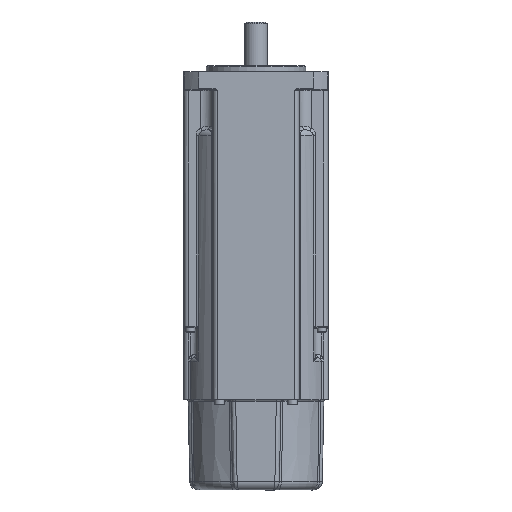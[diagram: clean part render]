
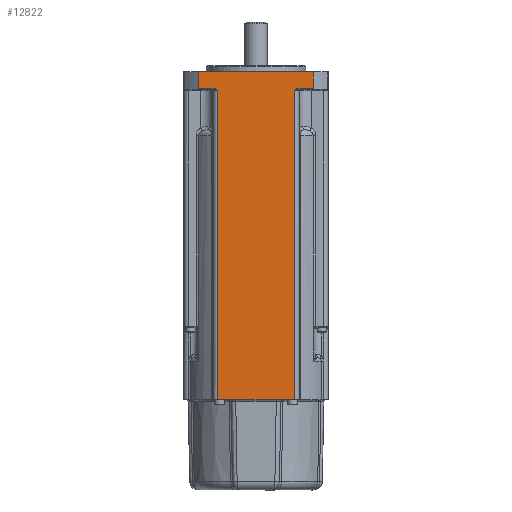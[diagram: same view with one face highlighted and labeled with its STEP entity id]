
A CAD part, front view. The second image highlights one B-rep face of the part: STEP entity #12822.
In plain terms, the highlighted planar face has unit normal (0, -1, 0).
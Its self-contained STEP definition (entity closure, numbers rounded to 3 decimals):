
#7372 = CARTESIAN_POINT ( 'NONE',  ( -15.232, -29., -132.2 ) ) ;
#7373 = DIRECTION ( 'NONE',  ( -1., 0., 0. ) ) ;
#7374 = VECTOR ( 'NONE', #7373, 1000. ) ;
#7375 = CARTESIAN_POINT ( 'NONE',  ( -17.215, -29., -132.2 ) ) ;
#7376 = LINE ( 'NONE', #7375, #7374 ) ;
#7403 = CARTESIAN_POINT ( 'NONE',  ( 15.232, -29., -132.2 ) ) ;
#7883 = VERTEX_POINT ( 'NONE', #13225 ) ;
#7884 = ORIENTED_EDGE ( 'NONE', *, *, #7912, .T. ) ;
#7900 = EDGE_CURVE ( 'NONE', #7883, #7916, #13254, .T. ) ;
#7901 = ORIENTED_EDGE ( 'NONE', *, *, #17358, .F. ) ;
#7910 = EDGE_CURVE ( 'NONE', #12450, #12571, #13382, .T. ) ;
#7912 = EDGE_CURVE ( 'NONE', #7918, #7883, #13416, .T. ) ;
#7914 = ORIENTED_EDGE ( 'NONE', *, *, #7910, .T. ) ;
#7916 = VERTEX_POINT ( 'NONE', #13410 ) ;
#7918 = VERTEX_POINT ( 'NONE', #13409 ) ;
#7930 = ORIENTED_EDGE ( 'NONE', *, *, #7931, .T. ) ;
#7931 = EDGE_CURVE ( 'NONE', #17370, #12450, #13441, .T. ) ;
#12396 = ORIENTED_EDGE ( 'NONE', *, *, #12869, .T. ) ;
#12450 = VERTEX_POINT ( 'NONE', #25014 ) ;
#12562 = ORIENTED_EDGE ( 'NONE', *, *, #12574, .T. ) ;
#12564 = EDGE_LOOP ( 'NONE', ( #12586, #12562, #12587, #12573, #7884, #12855, #12396, #7901, #7930, #7914 ) ) ;
#12569 = VERTEX_POINT ( 'NONE', #25168 ) ;
#12571 = VERTEX_POINT ( 'NONE', #25159 ) ;
#12572 = EDGE_CURVE ( 'NONE', #12582, #7918, #25156, .T. ) ;
#12573 = ORIENTED_EDGE ( 'NONE', *, *, #12572, .T. ) ;
#12574 = EDGE_CURVE ( 'NONE', #12569, #12575, #25147, .T. ) ;
#12575 = VERTEX_POINT ( 'NONE', #25143 ) ;
#12576 = EDGE_CURVE ( 'NONE', #12575, #12582, #25141, .T. ) ;
#12582 = VERTEX_POINT ( 'NONE', #25205 ) ;
#12586 = ORIENTED_EDGE ( 'NONE', *, *, #12590, .T. ) ;
#12587 = ORIENTED_EDGE ( 'NONE', *, *, #12576, .T. ) ;
#12590 = EDGE_CURVE ( 'NONE', #12571, #12569, #25190, .T. ) ;
#12822 = ADVANCED_FACE ( 'NONE', ( #25304 ), #25303, .T. ) ;
#12855 = ORIENTED_EDGE ( 'NONE', *, *, #7900, .T. ) ;
#12869 = EDGE_CURVE ( 'NONE', #7916, #17359, #25433, .T. ) ;
#13225 = CARTESIAN_POINT ( 'NONE',  ( -17.226, -29., -7.304 ) ) ;
#13250 = CARTESIAN_POINT ( 'NONE',  ( -16.847, -29., -7.339 ) ) ;
#13251 = CARTESIAN_POINT ( 'NONE',  ( -17.035, -29., -7.304 ) ) ;
#13252 = CARTESIAN_POINT ( 'NONE',  ( -17.226, -29., -7.304 ) ) ;
#13254 = B_SPLINE_CURVE_WITH_KNOTS ( 'NONE', 3,
 ( #13252, #13251, #13250, #13300, #13299, #13298, #13297, #13296 ),
 .UNSPECIFIED., .F., .F.,
 ( 4, 2, 2, 4 ),
 ( 0., 0.001, 0.001, 0.002 ),
 .UNSPECIFIED. ) ;
#13296 = CARTESIAN_POINT ( 'NONE',  ( -15.232, -29., -8.296 ) ) ;
#13297 = CARTESIAN_POINT ( 'NONE',  ( -15.525, -29., -8.056 ) ) ;
#13298 = CARTESIAN_POINT ( 'NONE',  ( -15.823, -29., -7.815 ) ) ;
#13299 = CARTESIAN_POINT ( 'NONE',  ( -16.315, -29., -7.534 ) ) ;
#13300 = CARTESIAN_POINT ( 'NONE',  ( -16.485, -29., -7.454 ) ) ;
#13362 = CARTESIAN_POINT ( 'NONE',  ( 17.226, -29., -7.304 ) ) ;
#13363 = CARTESIAN_POINT ( 'NONE',  ( 17.035, -29., -7.304 ) ) ;
#13364 = CARTESIAN_POINT ( 'NONE',  ( 16.847, -29., -7.339 ) ) ;
#13365 = CARTESIAN_POINT ( 'NONE',  ( 16.485, -29., -7.454 ) ) ;
#13366 = CARTESIAN_POINT ( 'NONE',  ( 16.315, -29., -7.534 ) ) ;
#13367 = CARTESIAN_POINT ( 'NONE',  ( 15.823, -29., -7.815 ) ) ;
#13368 = CARTESIAN_POINT ( 'NONE',  ( 15.526, -29., -8.056 ) ) ;
#13369 = CARTESIAN_POINT ( 'NONE',  ( 15.232, -29., -8.296 ) ) ;
#13382 = B_SPLINE_CURVE_WITH_KNOTS ( 'NONE', 3,
 ( #13369, #13368, #13367, #13366, #13365, #13364, #13363, #13362 ),
 .UNSPECIFIED., .F., .F.,
 ( 4, 2, 2, 4 ),
 ( 0., 0.001, 0.002, 0.002 ),
 .UNSPECIFIED. ) ;
#13409 = CARTESIAN_POINT ( 'NONE',  ( -22.978, -29., -7.304 ) ) ;
#13410 = CARTESIAN_POINT ( 'NONE',  ( -15.232, -29., -8.296 ) ) ;
#13411 = DIRECTION ( 'NONE',  ( 1., 0., 0. ) ) ;
#13413 = VECTOR ( 'NONE', #13411, 1000. ) ;
#13415 = CARTESIAN_POINT ( 'NONE',  ( -15.232, -29., -7.304 ) ) ;
#13416 = LINE ( 'NONE', #13415, #13413 ) ;
#13430 = VECTOR ( 'NONE', #13439, 1000. ) ;
#13439 = DIRECTION ( 'NONE',  ( 0., 0., 1. ) ) ;
#13440 = CARTESIAN_POINT ( 'NONE',  ( 15.232, -29., -7.8 ) ) ;
#13441 = LINE ( 'NONE', #13440, #13430 ) ;
#17358 = EDGE_CURVE ( 'NONE', #17370, #17359, #7376, .T. ) ;
#17359 = VERTEX_POINT ( 'NONE', #7372 ) ;
#17370 = VERTEX_POINT ( 'NONE', #7403 ) ;
#25014 = CARTESIAN_POINT ( 'NONE',  ( 15.232, -29., -8.296 ) ) ;
#25138 = DIRECTION ( 'NONE',  ( -1., 0., 0. ) ) ;
#25139 = VECTOR ( 'NONE', #25138, 1000. ) ;
#25140 = CARTESIAN_POINT ( 'NONE',  ( -29., -29., -0.8 ) ) ;
#25141 = LINE ( 'NONE', #25140, #25139 ) ;
#25143 = CARTESIAN_POINT ( 'NONE',  ( 22.978, -29., -0.8 ) ) ;
#25144 = DIRECTION ( 'NONE',  ( 0., 0., 1. ) ) ;
#25145 = VECTOR ( 'NONE', #25144, 1000. ) ;
#25146 = CARTESIAN_POINT ( 'NONE',  ( 22.978, -29., 4.953 ) ) ;
#25147 = LINE ( 'NONE', #25146, #25145 ) ;
#25151 = DIRECTION ( 'NONE',  ( 0., 0., -1. ) ) ;
#25153 = VECTOR ( 'NONE', #25151, 1000. ) ;
#25155 = CARTESIAN_POINT ( 'NONE',  ( -22.978, -29., 4.953 ) ) ;
#25156 = LINE ( 'NONE', #25155, #25153 ) ;
#25159 = CARTESIAN_POINT ( 'NONE',  ( 17.226, -29., -7.304 ) ) ;
#25168 = CARTESIAN_POINT ( 'NONE',  ( 22.978, -29., -7.304 ) ) ;
#25187 = DIRECTION ( 'NONE',  ( 1., 0., 0. ) ) ;
#25188 = VECTOR ( 'NONE', #25187, 1000. ) ;
#25189 = CARTESIAN_POINT ( 'NONE',  ( 25.277, -29., -7.304 ) ) ;
#25190 = LINE ( 'NONE', #25189, #25188 ) ;
#25205 = CARTESIAN_POINT ( 'NONE',  ( -22.978, -29., -0.8 ) ) ;
#25303 = PLANE ( 'NONE',  #25336 ) ;
#25304 = FACE_OUTER_BOUND ( 'NONE', #12564, .T. ) ;
#25332 = DIRECTION ( 'NONE',  ( 1., 0., 0. ) ) ;
#25333 = DIRECTION ( 'NONE',  ( 0., -1., 0. ) ) ;
#25335 = CARTESIAN_POINT ( 'NONE',  ( -29., -29., -7.8 ) ) ;
#25336 = AXIS2_PLACEMENT_3D ( 'NONE', #25335, #25333, #25332 ) ;
#25430 = DIRECTION ( 'NONE',  ( 0., 0., -1. ) ) ;
#25431 = VECTOR ( 'NONE', #25430, 1000. ) ;
#25432 = CARTESIAN_POINT ( 'NONE',  ( -15.232, -29., -132.2 ) ) ;
#25433 = LINE ( 'NONE', #25432, #25431 ) ;
